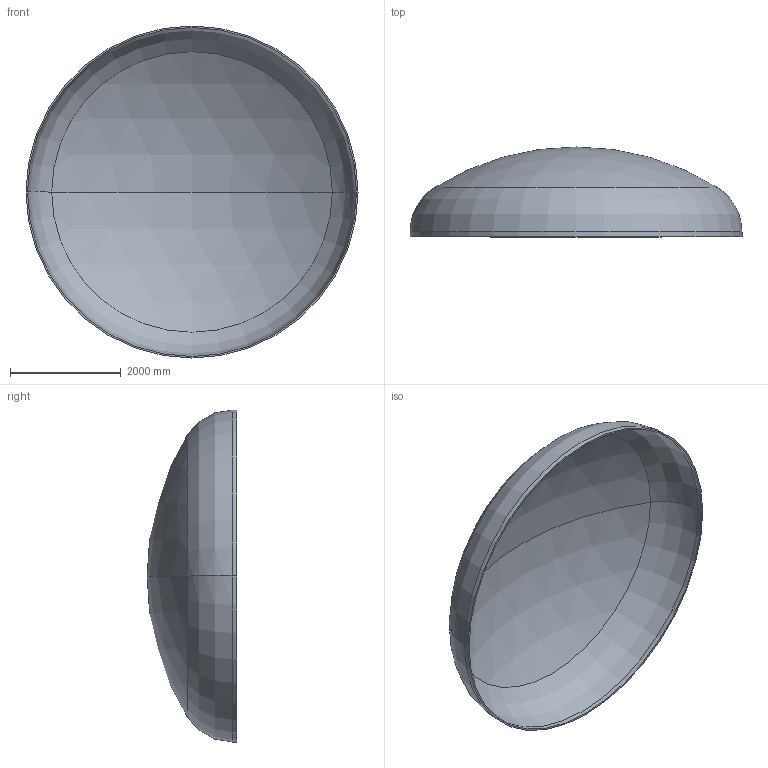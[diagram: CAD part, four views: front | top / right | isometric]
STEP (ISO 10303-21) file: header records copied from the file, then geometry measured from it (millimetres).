
FILE_DESCRIPTION (( 'STEP AP203' ), '1' );
FILE_NAME ('DIN 28013 Korbbogenform_-_Boden DIN 28013 - 6000 x 85 - I - s=28.step', '2016-07-04T10:36:23', ( '' ), ( '' ), 'SwSTEP 2.0', 'SolidWorks 2013', '' );
FILE_SCHEMA (( 'CONFIG_CONTROL_DESIGN' ));
Length unit declared in the file: millimetre
Products named in the file (1): DIN 28013 Korbbogenform_-_Boden DIN 28013 - 6000 x 85 - I - s=28
Bounding box: 6000 x 1622.8 x 6000 mm (x, y, z)
Volume: 1134649695.9 mm3; surface area: 81573341.2 mm2
Topology: 1 solids, 1 shells, 13 faces, 24 edges, 14 vertices
Faces by surface type: torus 4, cylinder 4, sphere 4, plane 1
Entity records: 407 total; most frequent: DIRECTION 72, CARTESIAN_POINT 52, ORIENTED_EDGE 48, AXIS2_PLACEMENT_3D 34, EDGE_CURVE 24, CIRCLE 20, EDGE_LOOP 14, VERTEX_POINT 14
